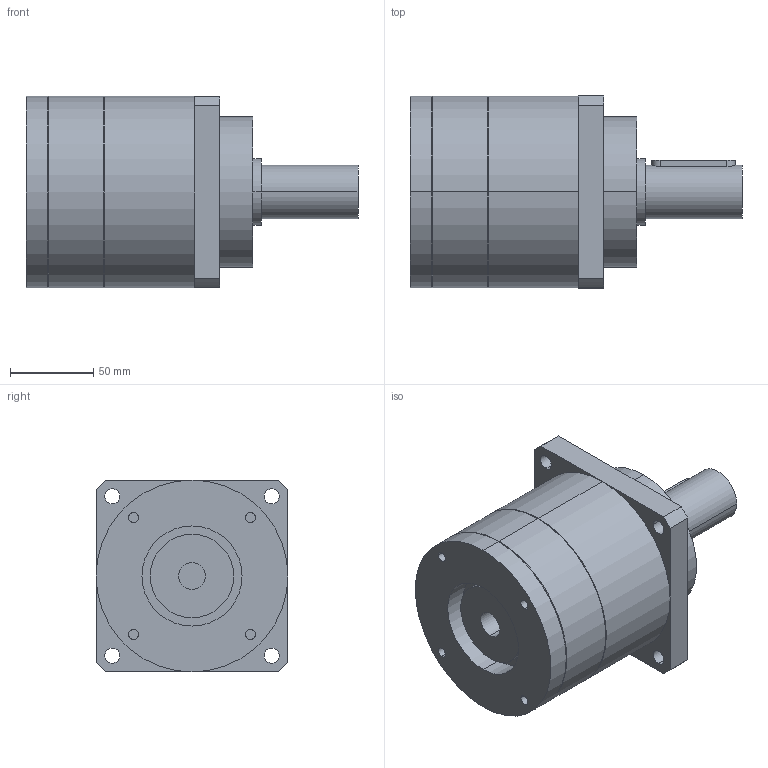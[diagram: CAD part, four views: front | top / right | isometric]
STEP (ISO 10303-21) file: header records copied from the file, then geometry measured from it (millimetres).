
FILE_DESCRIPTION(('CoCreate Modeling STEP Export'),'2;1');
FILE_NAME('GPT120_ig-3-4-5-7-10_32_B5A_16_P20.stp','2015-02-04T16:08:26',(''),(''),'CoCreate Modeling STEP processor for AP214 (Solid Model)','CoCreate Modeling 16.00C 25-Feb-2009 (C) Parametric Technology GmbH','');
FILE_SCHEMA(('AUTOMOTIVE_DESIGN { 1 0 10303 214 1 1 1 1 }'));
Length unit declared in the file: millimetre
Products named in the file (2): GPT120_ig-3-4-5-7-10_32_B5A_16_P20
Assembly tree (1 placements, depth 2):
  GPT120_ig-3-4-5-7-10_32_B5A_16_P20
    GPT120_ig-3-4-5-7-10_32_B5A_16_P20
Bounding box: 199 x 115 x 115 mm (x, y, z)
Volume: 1391348 mm3; surface area: 90630.9 mm2
Topology: 1 solids, 1 shells, 72 faces, 182 edges, 125 vertices
Faces by surface type: cylinder 42, plane 26, cone 4
Entity records: 2300 total; most frequent: CARTESIAN_POINT 712, ORIENTED_EDGE 364, DIRECTION 270, EDGE_CURVE 182, VERTEX_POINT 125, AXIS2_PLACEMENT_3D 101, EDGE_LOOP 93, FACE_OUTER_BOUND 72
